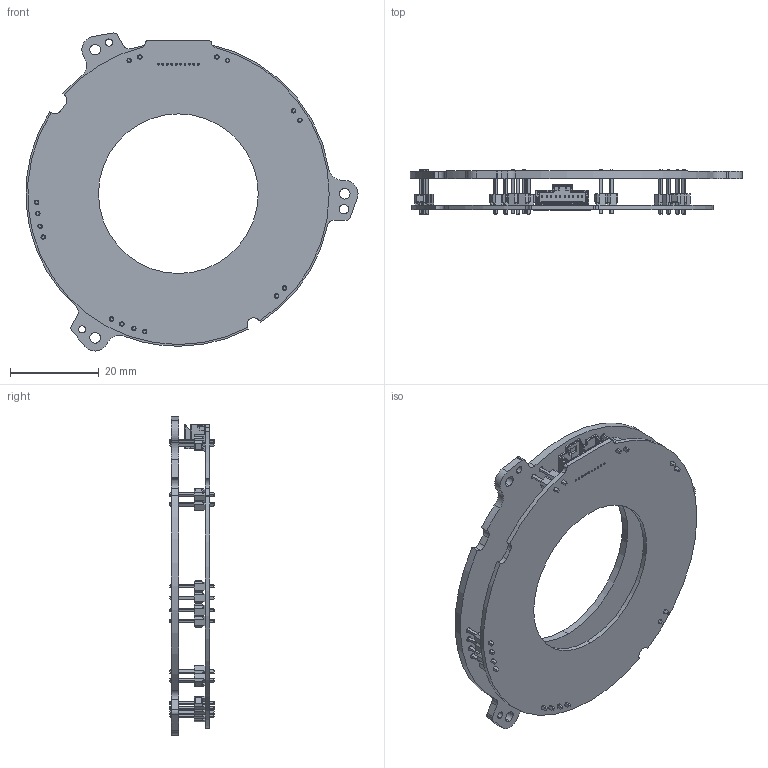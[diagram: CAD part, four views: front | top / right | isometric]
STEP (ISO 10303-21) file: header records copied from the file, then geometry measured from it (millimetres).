
FILE_DESCRIPTION (( 'STEP AP203' ), '1' );
FILE_NAME ('2422-114_Rev1-0-Stator-PR2.STEP', '2023-11-03T11:54:53', ( '' ), ( '' ), 'SwSTEP 2.0', 'SolidWorks 2022', '' );
FILE_SCHEMA (( 'CONFIG_CONTROL_DESIGN' ));
Length unit declared in the file: millimetre
Products named in the file (5): 2422-104_Rev1-0; 4002-0016; 2422-103_Rev1-0; 4010-0020; 2422-114_Rev1-0-Stator-PR2
Assembly tree (11 placements, depth 2):
  2422-114_Rev1-0-Stator-PR2
    2422-103_Rev1-0
    2422-104_Rev1-0
    4002-0016  x8
    4010-0020
Bounding box: 74.84 x 10 x 71.72 mm (x, y, z)
Volume: 7522.5 mm3; surface area: 13145.1 mm2
Topology: 27 solids, 27 shells, 1134 faces, 2964 edges, 1894 vertices
Faces by surface type: plane 938, cylinder 192, cone 4
Entity records: 19797 total; most frequent: CARTESIAN_POINT 3360, ORIENTED_EDGE 3296, DIRECTION 3227, EDGE_CURVE 1648, VECTOR 1255, LINE 1255, VERTEX_POINT 1082, AXIS2_PLACEMENT_3D 986
